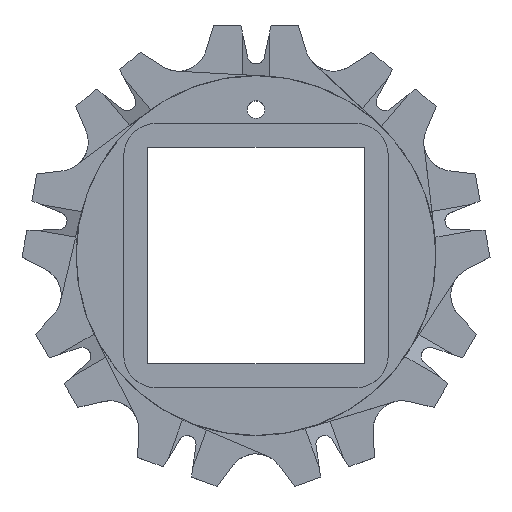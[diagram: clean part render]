
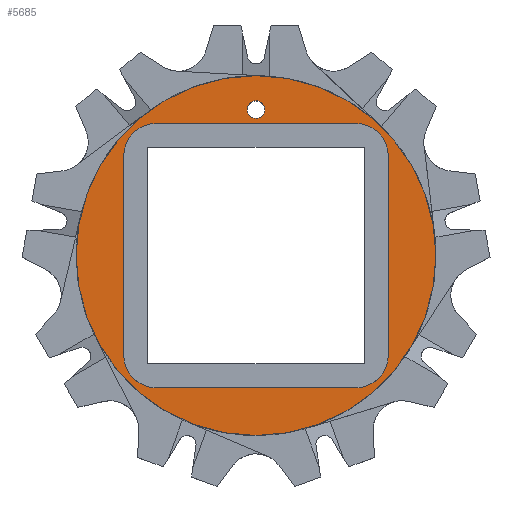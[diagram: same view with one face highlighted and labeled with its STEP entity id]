
A CAD part, top view. The second image highlights one B-rep face of the part: STEP entity #5685.
In plain terms, the highlighted planar face has unit normal (0, 0, 1).
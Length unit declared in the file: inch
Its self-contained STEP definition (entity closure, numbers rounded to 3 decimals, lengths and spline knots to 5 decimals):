
#2291=CARTESIAN_POINT('',(0.,0.,0.4375));
#2292=DIRECTION('',(0.,0.,1.));
#2293=DIRECTION('',(1.,0.,0.));
#2294=AXIS2_PLACEMENT_3D('',#2291,#2292,#2293);
#2296=CARTESIAN_POINT('',(0.,0.,0.4375));
#2297=DIRECTION('',(0.,0.,1.));
#2298=DIRECTION('',(-1.,0.,0.));
#2299=AXIS2_PLACEMENT_3D('',#2296,#2297,#2298);
#2301=DIRECTION('',(0.,-1.,0.));
#2302=VECTOR('',#2301,1.38);
#2303=CARTESIAN_POINT('',(-0.915,0.69,0.4375));
#2304=LINE('',#2303,#2302);
#2305=CARTESIAN_POINT('',(-0.69,-0.69,0.4375));
#2306=DIRECTION('',(0.,0.,1.));
#2307=DIRECTION('',(-1.,0.,0.));
#2308=AXIS2_PLACEMENT_3D('',#2305,#2306,#2307);
#2310=DIRECTION('',(1.,0.,0.));
#2311=VECTOR('',#2310,1.38);
#2312=CARTESIAN_POINT('',(-0.69,-0.915,0.4375));
#2313=LINE('',#2312,#2311);
#2314=CARTESIAN_POINT('',(0.69,-0.69,0.4375));
#2315=DIRECTION('',(0.,0.,1.));
#2316=DIRECTION('',(0.,-1.,0.));
#2317=AXIS2_PLACEMENT_3D('',#2314,#2315,#2316);
#2319=DIRECTION('',(0.,1.,0.));
#2320=VECTOR('',#2319,1.38);
#2321=CARTESIAN_POINT('',(0.915,-0.69,0.4375));
#2322=LINE('',#2321,#2320);
#2323=CARTESIAN_POINT('',(0.69,0.69,0.4375));
#2324=DIRECTION('',(0.,0.,1.));
#2325=DIRECTION('',(1.,0.,0.));
#2326=AXIS2_PLACEMENT_3D('',#2323,#2324,#2325);
#2328=DIRECTION('',(-1.,0.,0.));
#2329=VECTOR('',#2328,1.38);
#2330=CARTESIAN_POINT('',(0.69,0.915,0.4375));
#2331=LINE('',#2330,#2329);
#2332=CARTESIAN_POINT('',(-0.69,0.69,0.4375));
#2333=DIRECTION('',(0.,0.,1.));
#2334=DIRECTION('',(0.,1.,0.));
#2335=AXIS2_PLACEMENT_3D('',#2332,#2333,#2334);
#2337=CARTESIAN_POINT('',(0.,1.01,0.4375));
#2338=DIRECTION('',(0.,0.,1.));
#2339=DIRECTION('',(1.,0.,0.));
#2340=AXIS2_PLACEMENT_3D('',#2337,#2338,#2339);
#2342=CARTESIAN_POINT('',(0.,1.01,0.4375));
#2343=DIRECTION('',(0.,0.,1.));
#2344=DIRECTION('',(-1.,0.,0.));
#2345=AXIS2_PLACEMENT_3D('',#2342,#2343,#2344);
#2649=CARTESIAN_POINT('',(1.245,0.,0.4375));
#2650=CARTESIAN_POINT('',(-1.245,0.,0.4375));
#2651=VERTEX_POINT('',#2649);
#2652=VERTEX_POINT('',#2650);
#2733=CARTESIAN_POINT('',(-0.915,0.69,0.4375));
#2734=CARTESIAN_POINT('',(-0.915,-0.69,0.4375));
#2735=VERTEX_POINT('',#2733);
#2736=VERTEX_POINT('',#2734);
#2737=CARTESIAN_POINT('',(-0.69,-0.915,0.4375));
#2738=CARTESIAN_POINT('',(0.69,-0.915,0.4375));
#2739=VERTEX_POINT('',#2737);
#2740=VERTEX_POINT('',#2738);
#2741=CARTESIAN_POINT('',(0.915,-0.69,0.4375));
#2742=CARTESIAN_POINT('',(0.915,0.69,0.4375));
#2743=VERTEX_POINT('',#2741);
#2744=VERTEX_POINT('',#2742);
#2745=CARTESIAN_POINT('',(0.69,0.915,0.4375));
#2746=CARTESIAN_POINT('',(-0.69,0.915,0.4375));
#2747=VERTEX_POINT('',#2745);
#2748=VERTEX_POINT('',#2746);
#2785=CARTESIAN_POINT('',(0.06104,1.01,0.4375));
#2786=CARTESIAN_POINT('',(-0.06104,1.01,0.4375));
#2787=VERTEX_POINT('',#2785);
#2788=VERTEX_POINT('',#2786);
#5652=CARTESIAN_POINT('',(0.,0.,0.4375));
#5653=DIRECTION('',(0.,0.,1.));
#5654=DIRECTION('',(1.,0.,0.));
#5655=AXIS2_PLACEMENT_3D('',#5652,#5653,#5654);
#5656=PLANE('',#5655);
#5657=ORIENTED_EDGE('',*,*,#3346,.F.);
#5658=ORIENTED_EDGE('',*,*,#3878,.F.);
#5659=EDGE_LOOP('',(#5657,#5658));
#5660=FACE_OUTER_BOUND('',#5659,.F.);
#5662=ORIENTED_EDGE('',*,*,#5661,.T.);
#5664=ORIENTED_EDGE('',*,*,#5663,.T.);
#5666=ORIENTED_EDGE('',*,*,#5665,.T.);
#5668=ORIENTED_EDGE('',*,*,#5667,.T.);
#5670=ORIENTED_EDGE('',*,*,#5669,.T.);
#5672=ORIENTED_EDGE('',*,*,#5671,.T.);
#5674=ORIENTED_EDGE('',*,*,#5673,.T.);
#5676=ORIENTED_EDGE('',*,*,#5675,.T.);
#5677=EDGE_LOOP('',(#5662,#5664,#5666,#5668,#5670,#5672,#5674,#5676));
#5678=FACE_BOUND('',#5677,.F.);
#5680=ORIENTED_EDGE('',*,*,#5679,.T.);
#5682=ORIENTED_EDGE('',*,*,#5681,.T.);
#5683=EDGE_LOOP('',(#5680,#5682));
#5684=FACE_BOUND('',#5683,.F.);
#5685=ADVANCED_FACE('',(#5660,#5678,#5684),#5656,.T.);
#2295=CIRCLE('',#2294,1.245);
#2300=CIRCLE('',#2299,1.245);
#2309=CIRCLE('',#2308,0.225);
#2318=CIRCLE('',#2317,0.225);
#2327=CIRCLE('',#2326,0.225);
#2336=CIRCLE('',#2335,0.225);
#2341=CIRCLE('',#2340,0.06104);
#2346=CIRCLE('',#2345,0.06104);
#3346=EDGE_CURVE('',#2651,#2652,#2295,.T.);
#3878=EDGE_CURVE('',#2652,#2651,#2300,.T.);
#5661=EDGE_CURVE('',#2735,#2736,#2304,.T.);
#5663=EDGE_CURVE('',#2736,#2739,#2309,.T.);
#5665=EDGE_CURVE('',#2739,#2740,#2313,.T.);
#5667=EDGE_CURVE('',#2740,#2743,#2318,.T.);
#5669=EDGE_CURVE('',#2743,#2744,#2322,.T.);
#5671=EDGE_CURVE('',#2744,#2747,#2327,.T.);
#5673=EDGE_CURVE('',#2747,#2748,#2331,.T.);
#5675=EDGE_CURVE('',#2748,#2735,#2336,.T.);
#5679=EDGE_CURVE('',#2787,#2788,#2341,.T.);
#5681=EDGE_CURVE('',#2788,#2787,#2346,.T.);
